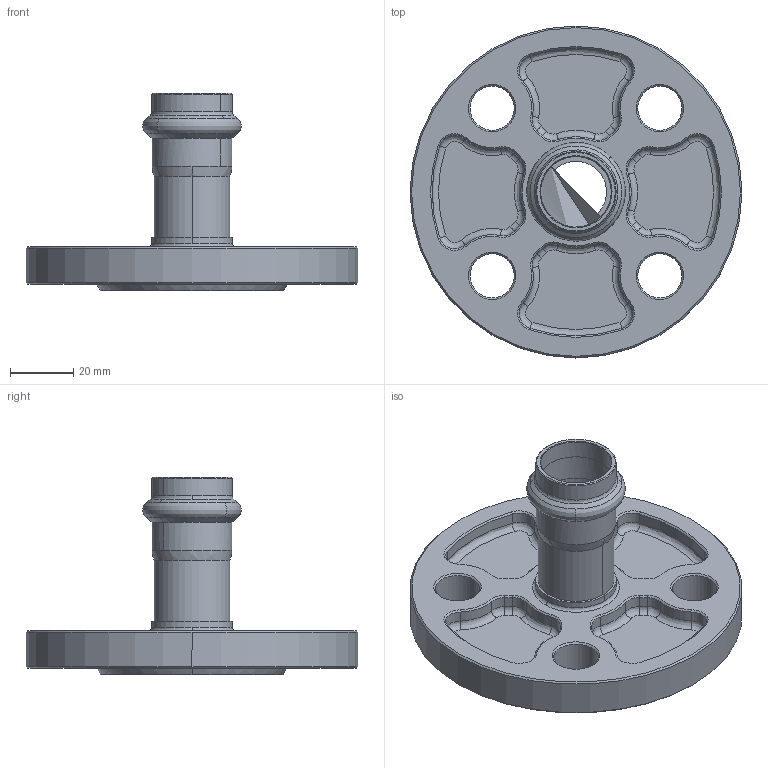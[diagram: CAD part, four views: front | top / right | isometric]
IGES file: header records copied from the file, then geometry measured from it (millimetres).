
Start section: Elysium IGES Interface
Global section: file name: C:\3d modellen sudo\S-Pr VP\SP6500V\6500VW22.igs; native system: CoCreate Modeling 17.00A  17-Jun-2010; preprocessor: CoCreate IGES_3D V2.2; author: Unknown; organization: Unknown; date: 20130129.101741; units: millimetre
Bounding box: 105 x 105 x 62.5 mm (x, y, z)
Surface area: 32129.6 mm2 (no closed solid volume)
Topology: 0 solids, 1 shells, 267 faces, 619 edges, 367 vertices
Faces by surface type: bspline 267
